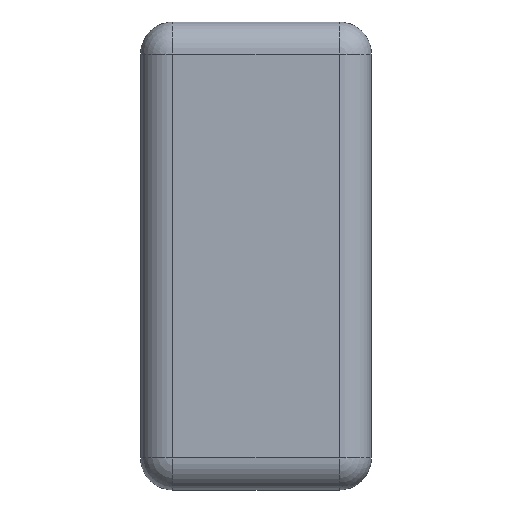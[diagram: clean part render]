
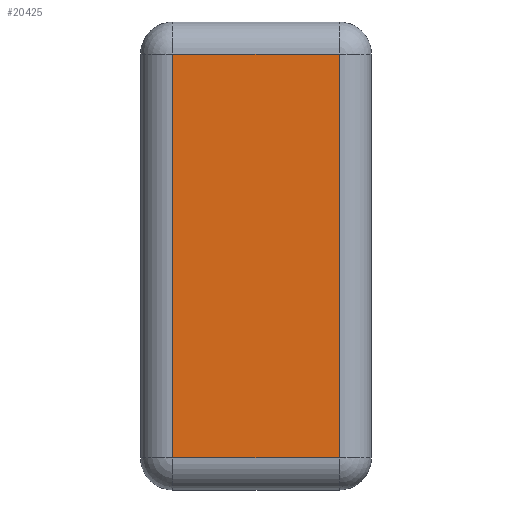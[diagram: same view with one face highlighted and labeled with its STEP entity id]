
A CAD part, front view. The second image highlights one B-rep face of the part: STEP entity #20425.
In plain terms, the highlighted planar face has unit normal (0, -1, 0).
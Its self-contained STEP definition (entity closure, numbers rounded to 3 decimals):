
#1694 = VECTOR ( 'NONE', #4123, 1000. ) ;
#1923 = VECTOR ( 'NONE', #20661, 1000. ) ;
#2490 = CARTESIAN_POINT ( 'NONE',  ( 0., -10., 0. ) ) ;
#2593 = LINE ( 'NONE', #9973, #31062 ) ;
#3561 = CARTESIAN_POINT ( 'NONE',  ( -9., -10., 15.75 ) ) ;
#3618 = LINE ( 'NONE', #4017, #1694 ) ;
#4017 = CARTESIAN_POINT ( 'NONE',  ( 6.5, -10., 18.25 ) ) ;
#4123 = DIRECTION ( 'NONE',  ( 0., 0., 1. ) ) ;
#4476 = VERTEX_POINT ( 'NONE', #22488 ) ;
#6664 = VERTEX_POINT ( 'NONE', #22677 ) ;
#8439 = VERTEX_POINT ( 'NONE', #8558 ) ;
#8558 = CARTESIAN_POINT ( 'NONE',  ( 6.5, -10., 15.75 ) ) ;
#9973 = CARTESIAN_POINT ( 'NONE',  ( -6.5, -10., -18.25 ) ) ;
#12883 = EDGE_CURVE ( 'NONE', #8439, #6664, #16906, .T. ) ;
#13002 = FACE_OUTER_BOUND ( 'NONE', #13753, .T. ) ;
#13706 = AXIS2_PLACEMENT_3D ( 'NONE', #2490, #20011, #24844 ) ;
#13753 = EDGE_LOOP ( 'NONE', ( #24585, #30302, #16530, #28411 ) ) ;
#15807 = CARTESIAN_POINT ( 'NONE',  ( 9., -10., -15.75 ) ) ;
#15904 = DIRECTION ( 'NONE',  ( 1., 0., 0. ) ) ;
#16530 = ORIENTED_EDGE ( 'NONE', *, *, #31485, .T. ) ;
#16906 = LINE ( 'NONE', #3561, #1923 ) ;
#17210 = PLANE ( 'NONE',  #13706 ) ;
#20011 = DIRECTION ( 'NONE',  ( 0., 1., 0. ) ) ;
#20224 = VECTOR ( 'NONE', #15904, 1000. ) ;
#20282 = EDGE_CURVE ( 'NONE', #6664, #4476, #2593, .T. ) ;
#20425 = ADVANCED_FACE ( 'NONE', ( #13002 ), #17210, .F. ) ;
#20661 = DIRECTION ( 'NONE',  ( -1., 0., 0. ) ) ;
#22488 = CARTESIAN_POINT ( 'NONE',  ( -6.5, -10., -15.75 ) ) ;
#22677 = CARTESIAN_POINT ( 'NONE',  ( -6.5, -10., 15.75 ) ) ;
#24160 = EDGE_CURVE ( 'NONE', #4476, #25025, #27916, .T. ) ;
#24585 = ORIENTED_EDGE ( 'NONE', *, *, #20282, .T. ) ;
#24698 = DIRECTION ( 'NONE',  ( 0., 0., -1. ) ) ;
#24844 = DIRECTION ( 'NONE',  ( 0., 0., 1. ) ) ;
#25025 = VERTEX_POINT ( 'NONE', #26903 ) ;
#26903 = CARTESIAN_POINT ( 'NONE',  ( 6.5, -10., -15.75 ) ) ;
#27916 = LINE ( 'NONE', #15807, #20224 ) ;
#28411 = ORIENTED_EDGE ( 'NONE', *, *, #12883, .T. ) ;
#30302 = ORIENTED_EDGE ( 'NONE', *, *, #24160, .T. ) ;
#31062 = VECTOR ( 'NONE', #24698, 1000. ) ;
#31485 = EDGE_CURVE ( 'NONE', #25025, #8439, #3618, .T. ) ;
